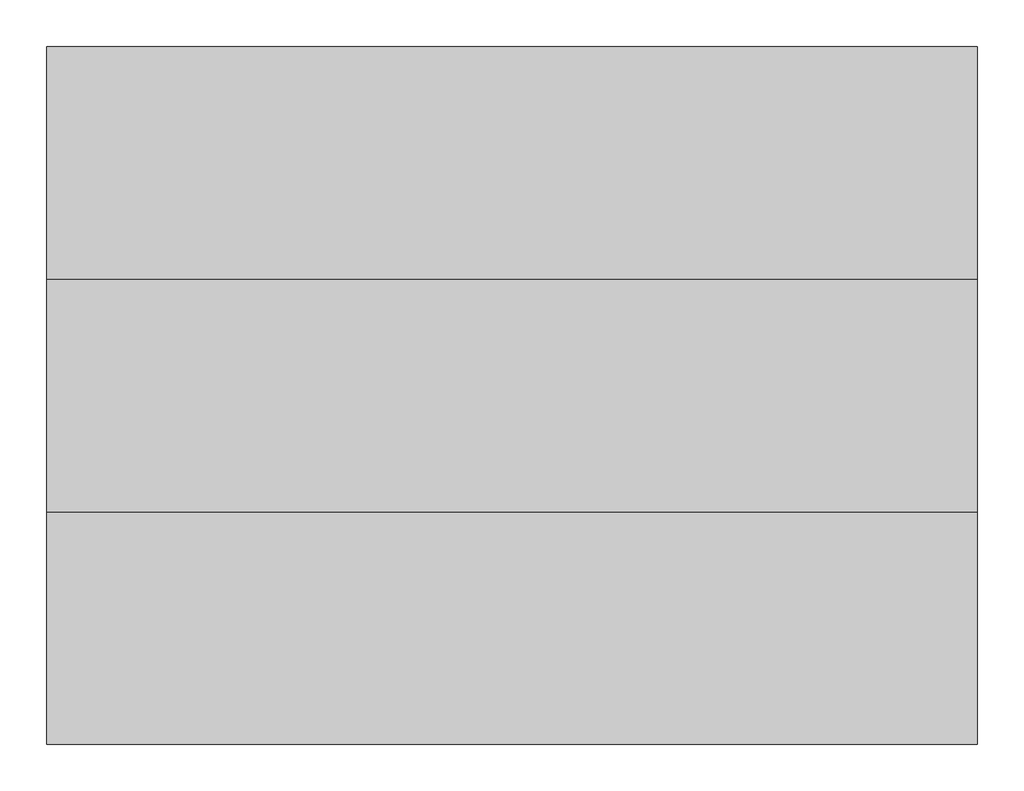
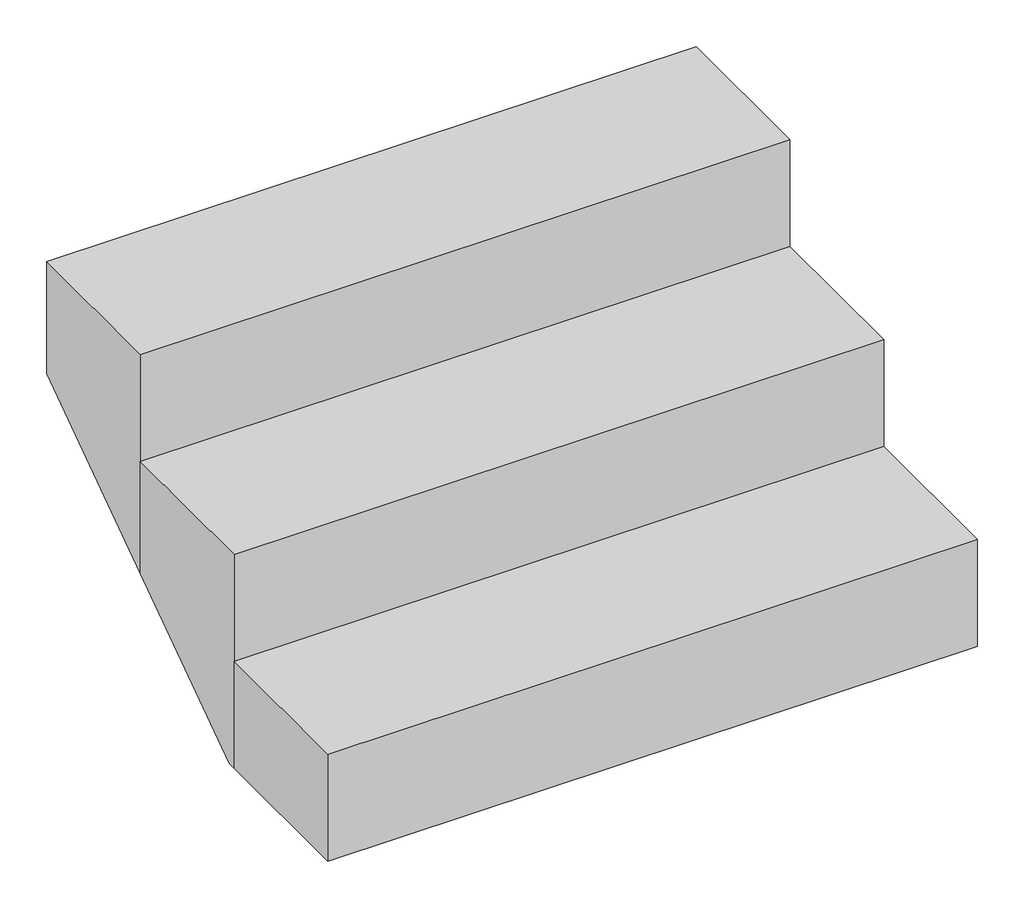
# One storey, incomplete: 1 stair flight.
"""IFC4 building model written with IfcOpenShell, lengths in millimetres."""

from ifc_helpers import new_model, si_unit, origin, place, context, project, spatial, faceted_brep, element, save

model = new_model("IFC4")

# Units and contexts
model_context = context("Model", 3, world=origin())
ifc_project = project(units=[si_unit("LENGTHUNIT", "METRE", prefix="MILLI")], contexts=[model_context])

# Site, building, storey
site = spatial("IfcSite", under=ifc_project)
building = spatial("IfcBuilding", under=site)
storey = spatial("IfcBuildingStorey", under=building, Name="Nível 1", Elevation=0.0)

# Stair flight
placement = place(None, origin())
element("IfcStairFlight", 1, ObjectType="Profundidade de 150mm", at=placement, inside=storey, context=model_context, shape_type="Brep", body=[
    faceted_brep([(-390.1965177, 252.7779163, 173.9130435), (-390.1965177, 2.7779163, 173.9130435), (609.8034823, 2.7779163, 173.9130435), (609.8034823, 252.7779163, 173.9130435), (-390.1965177, 252.7779163, 0.0), (-390.1965177, 2.7779163, 0.0), (609.8034823, 2.7779163, 0.0), (609.8034823, 252.7779163, 0.0), (-390.1965177, 502.7779163, 347.826087), (-390.1965177, 252.7779163, 347.826087), (609.8034823, 252.7779163, 347.826087), (609.8034823, 502.7779163, 347.826087), (-390.1965177, 502.7779163, 165.1009688), (-390.1965177, 265.4452736, 0.0), (609.8034823, 265.4452736, 0.0), (609.8034823, 502.7779163, 165.1009688), (-390.1965177, 752.7779163, 521.7391304), (-390.1965177, 502.7779163, 521.7391304), (609.8034823, 502.7779163, 521.7391304), (609.8034823, 752.7779163, 521.7391304), (-390.1965177, 752.7779163, 339.0140123), (609.8034823, 752.7779163, 339.0140123)], [[[0, 1, 2, 3]], [[1, 0, 4, 5]], [[2, 1, 5, 6]], [[3, 2, 6, 7]], [[8, 9, 10, 11]], [[4, 0, 9, 8, 12, 13]], [[0, 3, 10, 9]], [[3, 7, 14, 15, 11, 10]], [[16, 17, 18, 19]], [[17, 16, 20, 12, 8]], [[8, 11, 18, 17]], [[19, 18, 11, 15, 21]], [[16, 19, 21, 20]], [[5, 4, 13, 14, 7, 6]], [[14, 13, 12, 20, 21, 15]]]),
])

save(model, "model.ifc")
